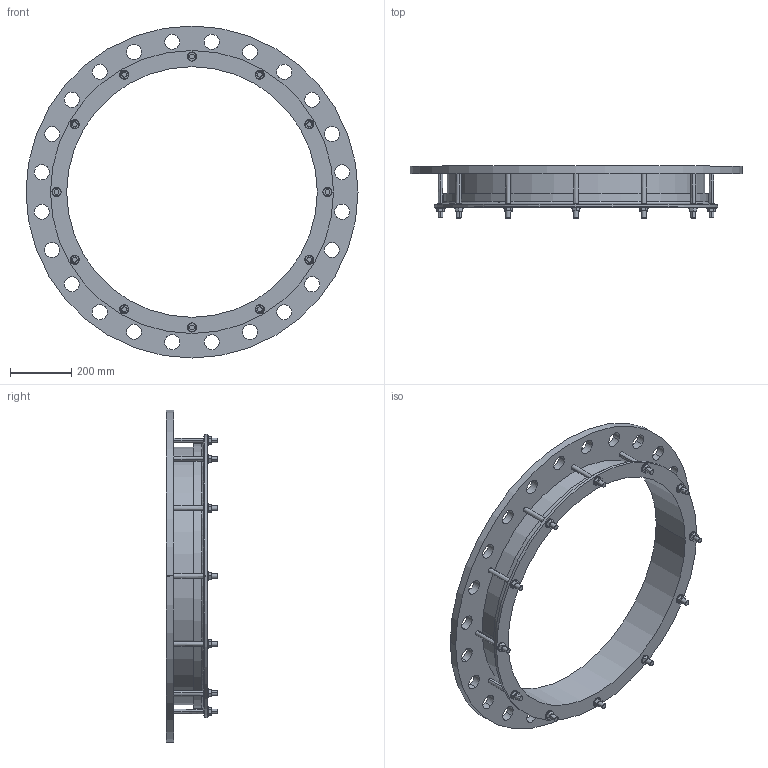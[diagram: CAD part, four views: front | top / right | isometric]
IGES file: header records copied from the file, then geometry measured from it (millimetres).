
Start section:  PTC IGES file: 816x800pn25.igs
Global section: file name: 816x800pn25.igs; native system: Creo Parametric by PTC Inc.; preprocessor: 2016130; author: mfairey; organization: Unknown; date: 20190404.142442; units: millimetre
Bounding box: 1085 x 169 x 1085 mm (x, y, z)
Surface area: 1819512.5 mm2 (no closed solid volume)
Topology: 0 solids, 0 shells, 246 faces, 1300 edges, 1300 vertices
Faces by surface type: revolution 134, bspline 112
